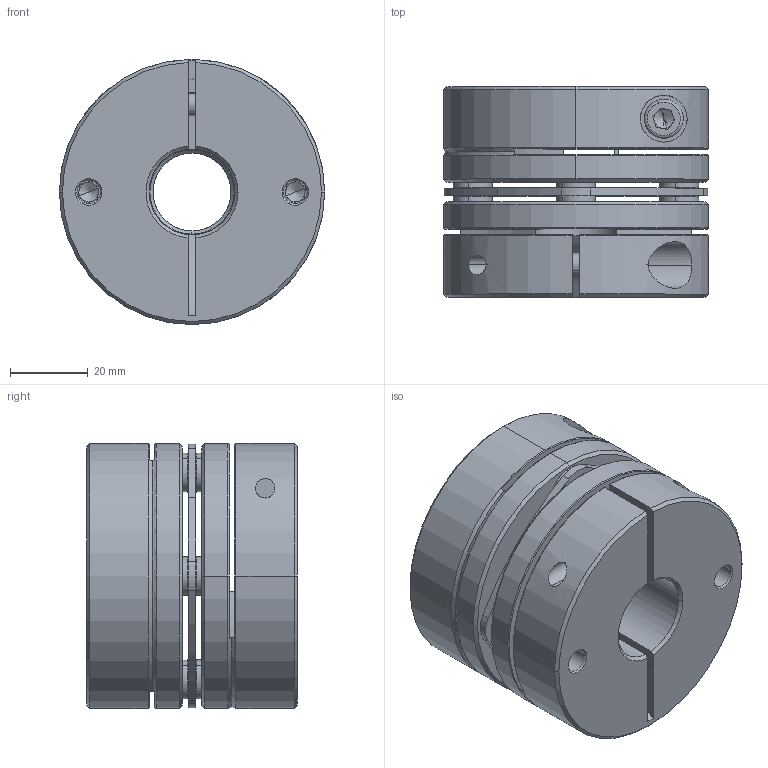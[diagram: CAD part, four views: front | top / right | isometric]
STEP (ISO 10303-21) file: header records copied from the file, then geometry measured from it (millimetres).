
FILE_DESCRIPTION (( 'STEP AP203' ), '1' );
FILE_NAME ('LD1-D68-20-22.STEP', '2021-10-26T07:57:21', ( '' ), ( '' ), 'SwSTEP 2.0', 'SolidWorks 2018', '' );
FILE_SCHEMA (( 'CONFIG_CONTROL_DESIGN' ));
Length unit declared in the file: millimetre
Products named in the file (2): 錨璃101^LD1-D68; LD1-D68-20-22
Assembly tree (1 placements, depth 2):
  LD1-D68-20-22
    錨璃101^LD1-D68
Bounding box: 68 x 54 x 68 mm (x, y, z)
Volume: 149513.9 mm3; surface area: 46737.7 mm2
Topology: 1 solids, 15 shells, 445 faces, 1059 edges, 650 vertices
Faces by surface type: cylinder 163, plane 138, cone 122, torus 22
Entity records: 13459 total; most frequent: CARTESIAN_POINT 2611, DIRECTION 2433, ORIENTED_EDGE 2086, EDGE_CURVE 1043, AXIS2_PLACEMENT_3D 988, VERTEX_POINT 650, CIRCLE 539, EDGE_LOOP 525
